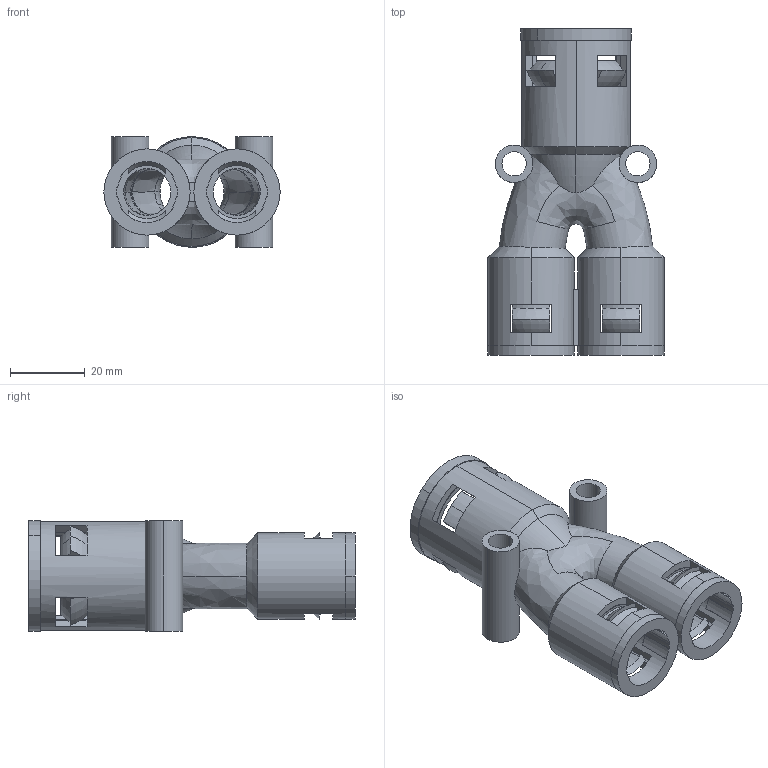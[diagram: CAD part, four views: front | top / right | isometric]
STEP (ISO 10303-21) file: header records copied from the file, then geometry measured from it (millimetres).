
FILE_DESCRIPTION (( 'STEP AP203' ), '1' );
FILE_NAME ('WQY-PA-AD21.2-2X15.8.STEP', '2012-06-08T02:01:24', ( '迾輿躂瑞' ), ( 'WwW.YlmF.CoM' ), 'SwSTEP 2.0', 'SolidWorks 2010', '' );
FILE_SCHEMA (( 'CONFIG_CONTROL_DESIGN' ));
Length unit declared in the file: millimetre
Products named in the file (4): WQY-PA-AD21.2-2X15.8; NSK-AD21.2; NSK-AD15.8
Assembly tree (4 placements, depth 2):
  WQY-PA-AD21.2-2X15.8
    WQY-PA-AD21.2-2X15.8
    NSK-AD15.8  x2
    NSK-AD21.2
Bounding box: 47 x 87 x 29.5 mm (x, y, z)
Volume: 26091.2 mm3; surface area: 27910.6 mm2
Topology: 7 solids, 7 shells, 344 faces, 978 edges, 635 vertices
Faces by surface type: plane 182, cylinder 65, bspline 53, torus 28, cone 16
Entity records: 13832 total; most frequent: CARTESIAN_POINT 5976, ORIENTED_EDGE 1672, DIRECTION 1444, EDGE_CURVE 836, AXIS2_PLACEMENT_3D 545, VERTEX_POINT 543, VECTOR 354, LINE 354
